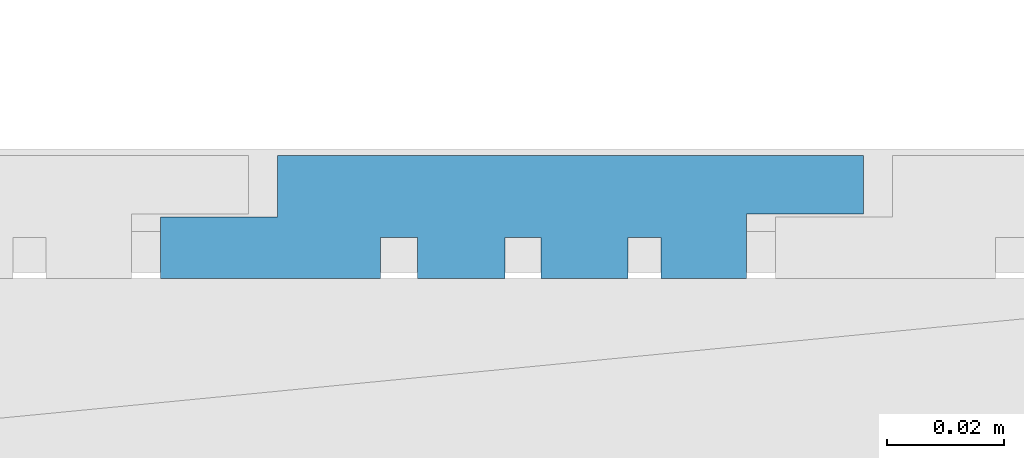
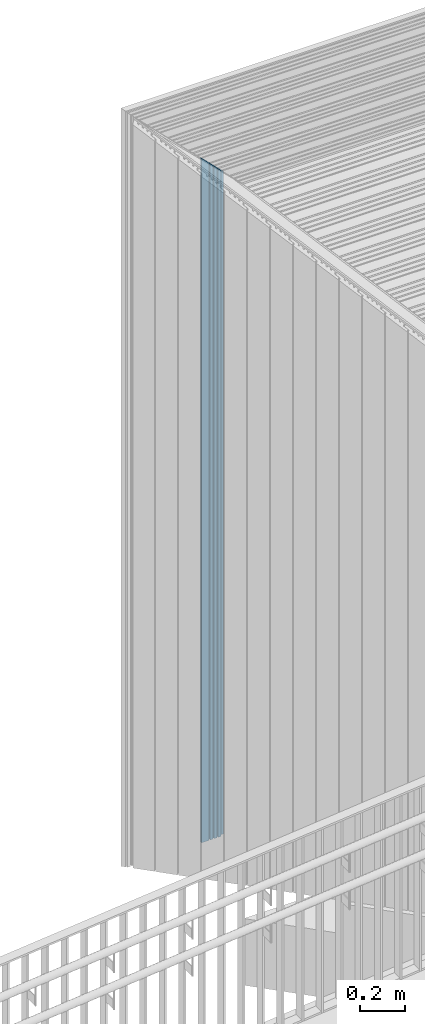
# One storey, part 135 of 418: 1 building element part, 1 element without a shape of its own.
"""IFC2X3 building model written with IfcOpenShell, lengths in millimetres."""

import ifcopenshell
import ifcopenshell.guid

model = None  # the IFC model being written
_history = None  # IfcOwnerHistory: only IFC2X3 demands one
_inside = {}  # id of a spatial element -> (the spatial element, [elements in it])
_under = {}  # id of a project, library or spatial element -> (it, [spatial elements below it])
_declared = {}  # id of a project -> (the project, [libraries it declares])
_typed = {}  # id of a type object -> (the type object, [elements of that type])
_made_of = {}  # id of a material, layer set ... -> (it, [elements and type objects made of it])


def new_model(schema):
    """Start an empty IFC model of exactly this schema.

    Asked for "IFC4X3", IfcOpenShell would pick the latest addendum, in which some entities
    have other attributes; the version numbers below select the first issue.
    IFC2X3 requires an IfcOwnerHistory on every rooted entity: one is made here for all.
    """
    global model, _history
    if schema == "IFC4X3":
        model = ifcopenshell.file(schema_version=(4, 3, 0, 0))
    else:
        model = ifcopenshell.file(schema=schema)
    _inside.clear()
    _under.clear()
    _declared.clear()
    _typed.clear()
    _made_of.clear()
    _history = None
    if model.schema == "IFC2X3":
        org = make("IfcOrganization", Name="unknown")
        user = make(
            "IfcPersonAndOrganization",
            ThePerson=make("IfcPerson", FamilyName="unknown"),
            TheOrganization=org,
        )
        app = make(
            "IfcApplication",
            ApplicationDeveloper=org,
            Version="unknown",
            ApplicationFullName="unknown",
            ApplicationIdentifier="unknown",
        )
        _history = make(
            "IfcOwnerHistory",
            OwningUser=user,
            OwningApplication=app,
            ChangeAction="ADDED",
            CreationDate=0,
        )
    return model


def make(cls, **values):
    """One entity of the class cls with the attributes given. An attribute that is None is left unset."""
    return model.create_entity(
        cls, **{name: value for name, value in values.items() if value is not None}
    )


def entity(cls, *values):
    """Any entity or typed value of the class cls, its attributes in the order of the schema. None: left unset."""
    e = model.create_entity(cls)
    for i, value in enumerate(values):
        if value is not None:
            e[i] = value
    return e


def rooted(cls, **values):
    """An entity with a GlobalId (a new one), such as an element, a storey or a relation."""
    return make(cls, GlobalId=ifcopenshell.guid.new(), OwnerHistory=_history, **values)


def si_unit(unit_type, name, prefix=None):
    """IfcSIUnit, for example si_unit("LENGTHUNIT", "METRE", prefix="MILLI")."""
    return make("IfcSIUnit", UnitType=unit_type, Prefix=prefix, Name=name)


def converted_unit(unit_type, name, factor, base, dimensions=None, offset=None):
    """IfcConversionBasedUnit, such as the inch: factor (a typed value) times the base unit."""
    return make(
        "IfcConversionBasedUnit"
        if offset is None
        else "IfcConversionBasedUnitWithOffset",
        ConversionOffset=offset,
        Dimensions=None
        if dimensions is None
        else entity("IfcDimensionalExponents", *dimensions),
        UnitType=unit_type,
        Name=name,
        ConversionFactor=make(
            "IfcMeasureWithUnit", ValueComponent=factor, UnitComponent=base
        ),
    )


def derived_unit(unit_type, elements):
    """IfcDerivedUnit: a product of units, each with its exponent."""
    return make(
        "IfcDerivedUnit",
        Elements=[
            make("IfcDerivedUnitElement", Unit=unit, Exponent=power)
            for unit, power in elements
        ],
        UnitType=unit_type,
    )


def money_unit(currency):
    """IfcMonetaryUnit."""
    return make("IfcMonetaryUnit", Currency=currency)


def assignment(units):
    """IfcUnitAssignment: the units of a project."""
    return None if units is None else make("IfcUnitAssignment", Units=units)


def point(xyz):
    """IfcCartesianPoint."""
    return None if xyz is None else make("IfcCartesianPoint", Coordinates=xyz)


def direction(xyz):
    """IfcDirection."""
    return None if xyz is None else make("IfcDirection", DirectionRatios=xyz)


def frame(location, z_axis=None, x_axis=None):
    """IfcAxis2Placement3D, a coordinate frame: its origin and axes. An axis left out is left unset."""
    return make(
        "IfcAxis2Placement3D",
        Location=point(location),
        Axis=direction(z_axis),
        RefDirection=direction(x_axis),
    )


def origin_with_axes():
    """The frame at (0, 0, 0) with the z axis (0, 0, 1) and the x axis (1, 0, 0) written out."""
    return frame((0.0, 0.0, 0.0), z_axis=(0.0, 0.0, 1.0), x_axis=(1.0, 0.0, 0.0))


def place(relative_to, where):
    """IfcLocalPlacement: puts the frame where relative to a parent placement (None: the world)."""
    return make(
        "IfcLocalPlacement", PlacementRelTo=relative_to, RelativePlacement=where
    )


def context(
    kind, dimensions, precision=None, world=None, true_north=None, identifier=None
):
    """IfcGeometricRepresentationContext, for example the 3D "Model" context."""
    return make(
        "IfcGeometricRepresentationContext",
        ContextIdentifier=identifier,
        ContextType=kind,
        CoordinateSpaceDimension=dimensions,
        Precision=precision,
        WorldCoordinateSystem=world,
        TrueNorth=true_north,
    )


def subcontext(parent, identifier, kind, view, scale=None):
    """IfcGeometricRepresentationSubContext, for example "Body" below "Model"."""
    return make(
        "IfcGeometricRepresentationSubContext",
        ContextIdentifier=identifier,
        ContextType=kind,
        ParentContext=parent,
        TargetScale=scale,
        TargetView=view,
    )


def project(units=None, contexts=None):
    """IfcProject with its units and contexts."""
    return rooted(
        "IfcProject",
        Name="project",
        RepresentationContexts=contexts,
        UnitsInContext=assignment(units),
    )


def spatial(cls, under=None, at=None, **own):
    """A site, building, storey or space (cls), placed at a placement, below another one or the project."""
    s = rooted(cls, ObjectPlacement=at, **own)
    if under is not None:
        _under.setdefault(under.id(), (under, []))[1].append(s)
    return s


def polyline(points):
    """IfcPolyline through the points."""
    return make("IfcPolyline", Points=[point(p) for p in points])


def outline(outer, holes=None, kind="AREA"):
    """IfcArbitraryClosedProfileDef: a profile drawn as a closed curve; with holes, ...WithVoids."""
    if holes is None:
        return make("IfcArbitraryClosedProfileDef", ProfileType=kind, OuterCurve=outer)
    return make(
        "IfcArbitraryProfileDefWithVoids",
        ProfileType=kind,
        OuterCurve=outer,
        InnerCurves=holes,
    )


def extrude(swept, where, along, depth):
    """IfcExtrudedAreaSolid: the profile swept, set in the frame where, extruded along a direction by depth."""
    return make(
        "IfcExtrudedAreaSolid",
        SweptArea=swept,
        Position=where,
        ExtrudedDirection=direction(along),
        Depth=depth,
    )


def boolean(op, a, b):
    """IfcBooleanResult of two solids."""
    return make("IfcBooleanResult", Operator=op, FirstOperand=a, SecondOperand=b)


def faces_of(points, faces, orient=None, outer=None):
    """IfcFace entities. A face is a list of loops; a loop is a list of indices into points, from 0.

    orient and outer hold one flag for each loop. By default every Orientation is true, the
    first loop of a face is its IfcFaceOuterBound and the others are IfcFaceBound.
    """
    made = []
    for i, loops in enumerate(faces):
        bounds = []
        for j, loop in enumerate(loops):
            is_outer = j == 0 if outer is None else outer[i][j]
            bounds.append(
                make(
                    "IfcFaceOuterBound" if is_outer else "IfcFaceBound",
                    Bound=make("IfcPolyLoop", Polygon=[points[k] for k in loop]),
                    Orientation=True if orient is None else orient[i][j],
                )
            )
        made.append(make("IfcFace", Bounds=bounds))
    return made


def faceted_brep(points, faces, orient=None, outer=None, voids=None):
    """IfcFacetedBrep: a solid bounded by flat faces; with voids (closed shells), ...WithVoids."""
    shared = [point(p) for p in points]
    hull = make("IfcClosedShell", CfsFaces=faces_of(shared, faces, orient, outer))
    if voids is None:
        return make("IfcFacetedBrep", Outer=hull)
    return make(
        "IfcFacetedBrepWithVoids",
        Outer=hull,
        Voids=[
            make(cls, CfsFaces=faces_of(shared, fs, o, b)) for cls, fs, o, b in voids
        ],
    )


def shape(context_of_items, identifier, shape_type, items):
    """IfcShapeRepresentation: the items that make up one representation, for example the "Body"."""
    return make(
        "IfcShapeRepresentation",
        ContextOfItems=context_of_items,
        RepresentationIdentifier=identifier,
        RepresentationType=shape_type,
        Items=items,
    )


def material(Name=None, Category=None):
    """IfcMaterial."""
    return make("IfcMaterial", Name=Name, Category=Category)


def made_of(thing, what):
    """Note that an element or type object is made of a material, layer set ...; save() writes the relation."""
    if what is not None:
        _made_of.setdefault(what.id(), (what, []))[1].append(thing)
    return thing


def type_object(cls, material=None, **own):
    """A type object (cls), such as IfcWallType, which elements share."""
    return made_of(rooted(cls, **own), material)


def element(
    cls,
    number,
    at=None,
    inside=None,
    cuts=None,
    type_object=None,
    material=None,
    context=None,
    identifier="Body",
    shape_type=None,
    held_by="IfcProductDefinitionShape",
    body=None,
    shapes=None,
    **own,
):
    """One element of the class cls, such as IfcWall. Its Tag is "e" and its number.

    at: its placement. inside: the storey or other place that contains it. cuts: it is an
    opening in that element (IfcRelVoidsElement). A single representation is given by context,
    identifier, shape_type and body (its items); several are given by shapes. held_by: the class
    of the entity that holds the representations. save() writes the other relations.
    """
    e = rooted(cls, Tag="e%d" % number, ObjectPlacement=at, **own)
    if body is not None:
        shapes = [shape(context, identifier, shape_type, body)]
    if shapes is not None:
        e.Representation = make(held_by, Representations=shapes)
    if inside is not None:
        _inside.setdefault(inside.id(), (inside, []))[1].append(e)
    if cuts is not None:
        rooted(
            "IfcRelVoidsElement", RelatingBuildingElement=cuts, RelatedOpeningElement=e
        )
    if type_object is not None:
        _typed.setdefault(type_object.id(), (type_object, []))[1].append(e)
    return made_of(e, material)


def aggregate(whole, parts):
    """IfcRelAggregates: a whole, such as a stair, and the parts it consists of."""
    return rooted("IfcRelAggregates", RelatingObject=whole, RelatedObjects=parts)


def save(model, path):
    """Write the relations noted so far, then the file.

    IfcRelAggregates (storeys below a building ...), IfcRelContainedInSpatialStructure (elements
    in a storey), IfcRelDefinesByType, IfcRelAssociatesMaterial and IfcRelDeclares: one each for
    every whole, place, type object, material and project.
    """
    for whole, parts in _under.values():
        aggregate(whole, parts)
    for where, things in _inside.values():
        rooted(
            "IfcRelContainedInSpatialStructure",
            RelatedElements=things,
            RelatingStructure=where,
        )
    for kind, things in _typed.values():
        rooted("IfcRelDefinesByType", RelatedObjects=things, RelatingType=kind)
    for what, things in _made_of.values():
        rooted("IfcRelAssociatesMaterial", RelatedObjects=things, RelatingMaterial=what)
    for by, libraries in _declared.values():
        rooted("IfcRelDeclares", RelatingContext=by, RelatedDefinitions=libraries)
    model.write(path)


model = new_model("IFC2X3")

# Units and contexts
model_context = context("Model", 3, precision=0.01, world=origin_with_axes(), true_north=direction((0.0, 1.0)))
body_context = subcontext(model_context, "Body", "Model", "MODEL_VIEW")
ifc_project = project(units=[si_unit("LENGTHUNIT", "METRE", prefix="MILLI"), si_unit("AREAUNIT", "SQUARE_METRE"), si_unit("VOLUMEUNIT", "CUBIC_METRE"), converted_unit("PLANEANGLEUNIT", "DEGREE", entity("IfcPlaneAngleMeasure", 0.0174532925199), si_unit("PLANEANGLEUNIT", "RADIAN"), dimensions=[0, 0, 0, 0, 0, 0, 0]), si_unit("SOLIDANGLEUNIT", "STERADIAN"), money_unit("EUR"), converted_unit("TIMEUNIT", "Year", entity("IfcTimeMeasure", 31556926.0), si_unit("TIMEUNIT", "SECOND"), dimensions=[0, 0, 1, 0, 0, 0, 0]), si_unit("MASSUNIT", "GRAM", prefix="KILO"), si_unit("THERMODYNAMICTEMPERATUREUNIT", "DEGREE_CELSIUS"), si_unit("LUMINOUSINTENSITYUNIT", "LUMEN"), si_unit("ENERGYUNIT", "JOULE", prefix="MEGA"), derived_unit("THERMALCONDUCTANCEUNIT", [(si_unit("POWERUNIT", "WATT"), 1), (si_unit("LENGTHUNIT", "METRE"), -1), (si_unit("THERMODYNAMICTEMPERATUREUNIT", "KELVIN"), -1)]), derived_unit("SPECIFICHEATCAPACITYUNIT", [(si_unit("ENERGYUNIT", "JOULE"), 1), (si_unit("MASSUNIT", "GRAM", prefix="KILO"), -1), (si_unit("THERMODYNAMICTEMPERATUREUNIT", "KELVIN"), -1)]), derived_unit("MASSDENSITYUNIT", [(si_unit("MASSUNIT", "GRAM", prefix="KILO"), 1), (si_unit("VOLUMEUNIT", "CUBIC_METRE"), -1)])], contexts=[model_context])

# Site, building, storey
site_placement = place(None, origin_with_axes())
site = spatial("IfcSite", under=ifc_project, at=site_placement, Name="Paldiski mnt 245/1, Tallinn, Harjumaa", CompositionType="COMPLEX")
building_placement = place(site_placement, origin_with_axes())
building = spatial("IfcBuilding", under=site, at=building_placement, Name="RKAS Hoone üldnimetus (kasutust iseloomustav) -> IFC Project Manager -> SOLIBRI", CompositionType="ELEMENT")
storey_placement = place(building_placement, origin_with_axes())
storey = spatial("IfcBuildingStorey", under=building, at=storey_placement, Name="Esimene korrus", CompositionType="ELEMENT", Elevation=0.0)

# Proxy, building element part
building_element_proxy_type = type_object("IfcBuildingElementProxyType", Name="Laudis esiprofiil_01 21 x 622", PredefinedType="NOTDEFINED")
proxy_placement = place(storey_placement, frame((-54498.5561962, 39788.252735, 0.0), z_axis=(0.0, 0.0, 1.0), x_axis=(0.0, 1.0, 0.0)))
proxy = element("IfcBuildingElementProxy", 1, at=proxy_placement, inside=storey, type_object=building_element_proxy_type, Name="Varikatus")
ifc_material = material(Name="Laudis 5072 Honka 45 horisontaalne raastas")
building_element_part_placement = place(proxy_placement, origin_with_axes())
building_element_part = element("IfcBuildingElementPart", 2, at=building_element_part_placement, material=ifc_material, Name="Laudis 5072 Honka 45 horisontaalne raastas", context=body_context, shape_type="CSG", body=[
    boolean("DIFFERENCE", boolean("DIFFERENCE", boolean("DIFFERENCE", boolean("DIFFERENCE", boolean("DIFFERENCE", boolean("DIFFERENCE", extrude(outline(polyline([(3.20348192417e-08, -415.971430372), (-10.5000010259, -415.971430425), (-10.5000005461, -395.971429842), (-20.9999998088, -395.971430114), (-21.0000010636, -433.497524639), (-14.0000005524, -433.497525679), (-14.0000003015, -439.860022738), (-20.99999981, -439.860022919), (-20.9999998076, -454.79914009), (-14.0000002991, -454.799139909), (-14.0000007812, -460.926080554), (-21.0000002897, -460.926080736), (-21.0000013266, -475.754573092), (-14.0000008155, -475.754574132), (-14.0000015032, -481.395242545), (-21.0000010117, -481.395242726), (-21.0000007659, -495.971429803), (-10.000001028, -495.971430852), (-10.0000002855, -515.971430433), (-7.63172636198e-07, -515.971430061), (3.20348192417e-08, -415.971430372)])), origin_with_axes(), (0.0, 0.0, 1.0), 4086.15997799), faceted_brep([(-10.0000002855, -515.971430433, 3569.02857075), (-7.63172636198e-07, -515.971430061, 3569.02857112), (-7.63172636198e-07, -515.971430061, 4086.15997799), (-10.0000002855, -515.971430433, 4086.15997799), (3.20312665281e-08, -415.971430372, 3669.02857081), (-10.000001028, -495.971430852, 3589.02857033), (-21.0000007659, -495.971429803, 3589.02857138), (-21.0000010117, -481.395242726, 3603.60475846), (-14.0000015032, -481.395242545, 3603.60475864), (-14.0000008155, -475.754574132, 3609.24542705), (-21.0000013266, -475.754573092, 3609.24542809), (-21.0000002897, -460.926080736, 3624.07392045), (-14.0000007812, -460.926080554, 3624.07392063), (-14.0000002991, -454.799139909, 3630.20086128), (-20.9999998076, -454.79914009, 3630.20086109), (-20.99999981, -439.860022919, 3645.13997827), (-14.0000003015, -439.860022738, 3645.13997845), (-14.0000005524, -433.497525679, 3651.50247551), (-21.0000010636, -433.497524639, 3651.50247655), (-20.9999998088, -395.971430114, 3689.02857107), (-10.5000005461, -395.971429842, 3689.02857134), (-10.5000010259, -415.971430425, 3669.02857076), (3.20312665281e-08, -415.971430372, 4086.15997799), (-10.5000010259, -415.971430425, 4086.15997799), (-10.5000005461, -395.971429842, 4086.15997799), (-20.9999998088, -395.971430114, 4086.15997799), (-21.0000010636, -433.497524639, 4086.15997799), (-14.0000005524, -433.497525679, 4086.15997799), (-14.0000003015, -439.860022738, 4086.15997799), (-20.99999981, -439.860022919, 4086.15997799), (-20.9999998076, -454.79914009, 4086.15997799), (-14.0000002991, -454.799139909, 4086.15997799), (-14.0000007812, -460.926080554, 4086.15997799), (-21.0000002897, -460.926080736, 4086.15997799), (-21.0000013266, -475.754573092, 4086.15997799), (-14.0000008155, -475.754574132, 4086.15997799), (-14.0000015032, -481.395242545, 4086.15997799), (-21.0000010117, -481.395242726, 4086.15997799), (-21.0000007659, -495.971429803, 4086.15997799), (-10.000001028, -495.971430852, 4086.15997799)], [[[0, 1, 2, 3]], [[4, 1, 0, 5, 6, 7, 8, 9, 10, 11, 12, 13, 14, 15, 16, 17, 18, 19, 20, 21]], [[1, 4, 22, 2]], [[2, 22, 23, 24, 25, 26, 27, 28, 29, 30, 31, 32, 33, 34, 35, 36, 37, 38, 39, 3]], [[5, 0, 3, 39]], [[6, 5, 39, 38]], [[7, 6, 38, 37]], [[8, 7, 37, 36]], [[9, 8, 36, 35]], [[10, 9, 35, 34]], [[11, 10, 34, 33]], [[12, 11, 33, 32]], [[13, 12, 32, 31]], [[14, 13, 31, 30]], [[15, 14, 30, 29]], [[16, 15, 29, 28]], [[17, 16, 28, 27]], [[18, 17, 27, 26]], [[19, 18, 26, 25]], [[20, 19, 25, 24]], [[21, 20, 24, 23]], [[4, 21, 23, 22]]])), faceted_brep([(-10.0000002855, -620.971430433, 3464.02857075), (-7.63172636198e-07, -620.971430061, 3464.02857112), (-7.63172636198e-07, -620.971430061, 4086.15997799), (-10.0000002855, -620.971430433, 4086.15997799), (3.20312665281e-08, -520.971430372, 3564.02857081), (-10.000001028, -600.971430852, 3484.02857033), (-21.0000007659, -600.971429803, 3484.02857138), (-21.0000010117, -586.395242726, 3498.60475846), (-14.0000015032, -586.395242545, 3498.60475864), (-14.0000008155, -580.754574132, 3504.24542705), (-21.0000013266, -580.754573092, 3504.24542809), (-21.0000002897, -565.926080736, 3519.07392045), (-14.0000007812, -565.926080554, 3519.07392063), (-14.0000002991, -559.799139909, 3525.20086128), (-20.9999998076, -559.79914009, 3525.20086109), (-20.99999981, -544.860022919, 3540.13997827), (-14.0000003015, -544.860022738, 3540.13997845), (-14.0000005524, -538.497525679, 3546.50247551), (-21.0000010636, -538.497524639, 3546.50247655), (-20.9999998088, -500.971430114, 3584.02857107), (-10.5000005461, -500.971429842, 3584.02857134), (-10.5000010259, -520.971430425, 3564.02857076), (3.20312665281e-08, -520.971430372, 4086.15997799), (-10.5000010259, -520.971430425, 4086.15997799), (-10.5000005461, -500.971429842, 4086.15997799), (-20.9999998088, -500.971430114, 4086.15997799), (-21.0000010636, -538.497524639, 4086.15997799), (-14.0000005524, -538.497525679, 4086.15997799), (-14.0000003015, -544.860022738, 4086.15997799), (-20.99999981, -544.860022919, 4086.15997799), (-20.9999998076, -559.79914009, 4086.15997799), (-14.0000002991, -559.799139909, 4086.15997799), (-14.0000007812, -565.926080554, 4086.15997799), (-21.0000002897, -565.926080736, 4086.15997799), (-21.0000013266, -580.754573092, 4086.15997799), (-14.0000008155, -580.754574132, 4086.15997799), (-14.0000015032, -586.395242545, 4086.15997799), (-21.0000010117, -586.395242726, 4086.15997799), (-21.0000007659, -600.971429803, 4086.15997799), (-10.000001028, -600.971430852, 4086.15997799)], [[[0, 1, 2, 3]], [[4, 1, 0, 5, 6, 7, 8, 9, 10, 11, 12, 13, 14, 15, 16, 17, 18, 19, 20, 21]], [[1, 4, 22, 2]], [[2, 22, 23, 24, 25, 26, 27, 28, 29, 30, 31, 32, 33, 34, 35, 36, 37, 38, 39, 3]], [[5, 0, 3, 39]], [[6, 5, 39, 38]], [[7, 6, 38, 37]], [[8, 7, 37, 36]], [[9, 8, 36, 35]], [[10, 9, 35, 34]], [[11, 10, 34, 33]], [[12, 11, 33, 32]], [[13, 12, 32, 31]], [[14, 13, 31, 30]], [[15, 14, 30, 29]], [[16, 15, 29, 28]], [[17, 16, 28, 27]], [[18, 17, 27, 26]], [[19, 18, 26, 25]], [[20, 19, 25, 24]], [[21, 20, 24, 23]], [[4, 21, 23, 22]]])), faceted_brep([(-10.0000002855, -305.971430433, 3779.02857075), (-7.63179741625e-07, -305.971430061, 3779.02857112), (-7.63179741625e-07, -305.971430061, 4086.15997799), (-10.0000002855, -305.971430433, 4086.15997799), (3.20312665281e-08, -205.971430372, 3879.02857081), (-10.000001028, -285.971430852, 3799.02857033), (-21.0000007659, -285.971429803, 3799.02857138), (-21.0000010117, -271.395242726, 3813.60475846), (-14.0000015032, -271.395242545, 3813.60475864), (-14.0000008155, -265.754574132, 3819.24542705), (-21.0000013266, -265.754573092, 3819.24542809), (-21.0000002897, -250.926080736, 3834.07392045), (-14.0000007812, -250.926080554, 3834.07392063), (-14.0000002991, -244.799139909, 3840.20086128), (-20.9999998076, -244.79914009, 3840.20086109), (-20.99999981, -229.860022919, 3855.13997827), (-14.0000003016, -229.860022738, 3855.13997845), (-14.0000005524, -223.497525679, 3861.50247551), (-21.0000010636, -223.497524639, 3861.50247655), (-20.9999998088, -185.971430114, 3899.02857107), (-10.5000005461, -185.971429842, 3899.02857134), (-10.5000010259, -205.971430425, 3879.02857076), (3.20312665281e-08, -205.971430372, 4086.15997799), (-10.5000010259, -205.971430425, 4086.15997799), (-10.5000005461, -185.971429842, 4086.15997799), (-20.9999998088, -185.971430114, 4086.15997799), (-21.0000010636, -223.497524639, 4086.15997799), (-14.0000005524, -223.497525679, 4086.15997799), (-14.0000003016, -229.860022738, 4086.15997799), (-20.99999981, -229.860022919, 4086.15997799), (-20.9999998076, -244.79914009, 4086.15997799), (-14.0000002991, -244.799139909, 4086.15997799), (-14.0000007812, -250.926080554, 4086.15997799), (-21.0000002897, -250.926080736, 4086.15997799), (-21.0000013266, -265.754573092, 4086.15997799), (-14.0000008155, -265.754574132, 4086.15997799), (-14.0000015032, -271.395242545, 4086.15997799), (-21.0000010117, -271.395242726, 4086.15997799), (-21.0000007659, -285.971429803, 4086.15997799), (-10.000001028, -285.971430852, 4086.15997799)], [[[0, 1, 2, 3]], [[4, 1, 0, 5, 6, 7, 8, 9, 10, 11, 12, 13, 14, 15, 16, 17, 18, 19, 20, 21]], [[1, 4, 22, 2]], [[2, 22, 23, 24, 25, 26, 27, 28, 29, 30, 31, 32, 33, 34, 35, 36, 37, 38, 39, 3]], [[5, 0, 3, 39]], [[6, 5, 39, 38]], [[7, 6, 38, 37]], [[8, 7, 37, 36]], [[9, 8, 36, 35]], [[10, 9, 35, 34]], [[11, 10, 34, 33]], [[12, 11, 33, 32]], [[13, 12, 32, 31]], [[14, 13, 31, 30]], [[15, 14, 30, 29]], [[16, 15, 29, 28]], [[17, 16, 28, 27]], [[18, 17, 27, 26]], [[19, 18, 26, 25]], [[20, 19, 25, 24]], [[21, 20, 24, 23]], [[4, 21, 23, 22]]])), faceted_brep([(-10.0000002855, -410.971430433, 3674.02857075), (-7.63172636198e-07, -410.971430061, 3674.02857112), (-7.63172636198e-07, -410.971430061, 4086.15997799), (-10.0000002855, -410.971430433, 4086.15997799), (3.20312665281e-08, -310.971430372, 3774.02857081), (-10.000001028, -390.971430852, 3694.02857033), (-21.0000007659, -390.971429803, 3694.02857138), (-21.0000010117, -376.395242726, 3708.60475846), (-14.0000015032, -376.395242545, 3708.60475864), (-14.0000008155, -370.754574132, 3714.24542705), (-21.0000013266, -370.754573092, 3714.24542809), (-21.0000002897, -355.926080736, 3729.07392045), (-14.0000007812, -355.926080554, 3729.07392063), (-14.0000002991, -349.799139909, 3735.20086128), (-20.9999998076, -349.79914009, 3735.20086109), (-20.99999981, -334.860022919, 3750.13997827), (-14.0000003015, -334.860022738, 3750.13997845), (-14.0000005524, -328.497525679, 3756.50247551), (-21.0000010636, -328.497524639, 3756.50247655), (-20.9999998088, -290.971430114, 3794.02857107), (-10.5000005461, -290.971429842, 3794.02857134), (-10.5000010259, -310.971430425, 3774.02857076), (3.20312665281e-08, -310.971430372, 4086.15997799), (-10.5000010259, -310.971430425, 4086.15997799), (-10.5000005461, -290.971429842, 4086.15997799), (-20.9999998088, -290.971430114, 4086.15997799), (-21.0000010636, -328.497524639, 4086.15997799), (-14.0000005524, -328.497525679, 4086.15997799), (-14.0000003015, -334.860022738, 4086.15997799), (-20.99999981, -334.860022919, 4086.15997799), (-20.9999998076, -349.79914009, 4086.15997799), (-14.0000002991, -349.799139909, 4086.15997799), (-14.0000007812, -355.926080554, 4086.15997799), (-21.0000002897, -355.926080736, 4086.15997799), (-21.0000013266, -370.754573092, 4086.15997799), (-14.0000008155, -370.754574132, 4086.15997799), (-14.0000015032, -376.395242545, 4086.15997799), (-21.0000010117, -376.395242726, 4086.15997799), (-21.0000007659, -390.971429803, 4086.15997799), (-10.000001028, -390.971430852, 4086.15997799)], [[[0, 1, 2, 3]], [[4, 1, 0, 5, 6, 7, 8, 9, 10, 11, 12, 13, 14, 15, 16, 17, 18, 19, 20, 21]], [[1, 4, 22, 2]], [[2, 22, 23, 24, 25, 26, 27, 28, 29, 30, 31, 32, 33, 34, 35, 36, 37, 38, 39, 3]], [[5, 0, 3, 39]], [[6, 5, 39, 38]], [[7, 6, 38, 37]], [[8, 7, 37, 36]], [[9, 8, 36, 35]], [[10, 9, 35, 34]], [[11, 10, 34, 33]], [[12, 11, 33, 32]], [[13, 12, 32, 31]], [[14, 13, 31, 30]], [[15, 14, 30, 29]], [[16, 15, 29, 28]], [[17, 16, 28, 27]], [[18, 17, 27, 26]], [[19, 18, 26, 25]], [[20, 19, 25, 24]], [[21, 20, 24, 23]], [[4, 21, 23, 22]]])), faceted_brep([(-10.0000000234, -95.9714304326, 3989.02857075), (-1.4387921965e-06, -95.9714304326, 3989.02857075), (-1.4387921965e-06, -95.9714304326, 4086.15997799), (-10.0000000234, -95.9714304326, 4086.15997799), (8.28492829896e-09, 1.13997680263, 4086.13997799), (-10.0000014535, -75.9714304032, 4009.02857078), (-21.0000013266, -75.9714304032, 4009.02857078), (-21.0000013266, -61.3952431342, 4023.60475805), (-14.0000008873, -61.3952431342, 4023.60475805), (-14.0000008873, -55.7545748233, 4029.24542636), (-21.0000013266, -55.7545733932, 4029.24542779), (-20.9999998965, -40.9260801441, 4044.07392104), (-14.0000008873, -40.9260801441, 4044.07392104), (-14.0000008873, -34.7991393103, 4050.20086187), (-20.9999998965, -34.7991407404, 4050.20086044), (-20.9999998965, -19.8600231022, 4065.13997808), (-14.0000008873, -19.8600231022, 4065.13997808), (-14.0000008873, -12.860024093, 4072.13997709), (8.28492829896e-09, 1.13997680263, 4086.15997799), (-20.9999998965, -40.9260801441, 4086.15997799), (-21.0000013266, -55.7545733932, 4086.15997799), (-14.0000008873, -55.7545748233, 4086.15997799), (-14.0000008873, -61.3952431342, 4086.15997799), (-21.0000013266, -61.3952431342, 4086.15997799), (-21.0000013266, -75.9714304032, 4086.15997799), (-10.0000014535, -75.9714304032, 4086.15997799), (-14.0000008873, -12.860024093, 4086.15997799), (-14.0000008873, -19.8600231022, 4086.15997799), (-20.9999998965, -19.8600231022, 4086.15997799), (-20.9999998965, -34.7991407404, 4086.15997799), (-14.0000008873, -34.7991393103, 4086.15997799), (-14.0000008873, -40.9260801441, 4086.15997799)], [[[0, 1, 2, 3]], [[4, 1, 0, 5, 6, 7, 8, 9, 10, 11, 12, 13, 14, 15, 16, 17]], [[1, 4, 18, 2]], [[19, 20, 21, 22, 23, 24, 25, 3, 2, 18, 26, 27, 28, 29, 30, 31]], [[5, 0, 3, 25]], [[6, 5, 25, 24]], [[7, 6, 24, 23]], [[8, 7, 23, 22]], [[9, 8, 22, 21]], [[10, 9, 21, 20]], [[11, 10, 20, 19]], [[12, 11, 19, 31]], [[13, 12, 31, 30]], [[14, 13, 30, 29]], [[15, 14, 29, 28]], [[16, 15, 28, 27]], [[17, 16, 27, 26]], [[4, 17, 26, 18]]])), faceted_brep([(-10.0000002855, -200.971430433, 3884.02857075), (-7.63179741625e-07, -200.971430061, 3884.02857112), (-7.63179741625e-07, -200.971430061, 4086.15997799), (-10.0000002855, -200.971430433, 4086.15997799), (3.20312665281e-08, -100.971430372, 3984.02857081), (-10.000001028, -180.971430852, 3904.02857033), (-21.0000007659, -180.971429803, 3904.02857138), (-21.0000010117, -166.395242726, 3918.60475846), (-14.0000015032, -166.395242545, 3918.60475864), (-14.0000008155, -160.754574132, 3924.24542705), (-21.0000013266, -160.754573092, 3924.24542809), (-21.0000002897, -145.926080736, 3939.07392045), (-14.0000007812, -145.926080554, 3939.07392063), (-14.0000002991, -139.799139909, 3945.20086128), (-20.9999998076, -139.79914009, 3945.20086109), (-20.99999981, -124.860022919, 3960.13997827), (-14.0000003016, -124.860022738, 3960.13997845), (-14.0000005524, -118.497525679, 3966.50247551), (-21.0000010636, -118.497524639, 3966.50247655), (-20.9999998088, -80.9714301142, 4004.02857107), (-10.5000005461, -80.9714298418, 4004.02857134), (-10.5000010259, -100.971430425, 3984.02857076), (3.20312665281e-08, -100.971430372, 4086.15997799), (-10.5000010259, -100.971430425, 4086.15997799), (-10.5000005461, -80.9714298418, 4086.15997799), (-20.9999998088, -80.9714301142, 4086.15997799), (-21.0000010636, -118.497524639, 4086.15997799), (-14.0000005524, -118.497525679, 4086.15997799), (-14.0000003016, -124.860022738, 4086.15997799), (-20.99999981, -124.860022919, 4086.15997799), (-20.9999998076, -139.79914009, 4086.15997799), (-14.0000002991, -139.799139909, 4086.15997799), (-14.0000007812, -145.926080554, 4086.15997799), (-21.0000002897, -145.926080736, 4086.15997799), (-21.0000013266, -160.754573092, 4086.15997799), (-14.0000008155, -160.754574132, 4086.15997799), (-14.0000015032, -166.395242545, 4086.15997799), (-21.0000010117, -166.395242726, 4086.15997799), (-21.0000007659, -180.971429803, 4086.15997799), (-10.000001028, -180.971430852, 4086.15997799)], [[[0, 1, 2, 3]], [[4, 1, 0, 5, 6, 7, 8, 9, 10, 11, 12, 13, 14, 15, 16, 17, 18, 19, 20, 21]], [[1, 4, 22, 2]], [[2, 22, 23, 24, 25, 26, 27, 28, 29, 30, 31, 32, 33, 34, 35, 36, 37, 38, 39, 3]], [[5, 0, 3, 39]], [[6, 5, 39, 38]], [[7, 6, 38, 37]], [[8, 7, 37, 36]], [[9, 8, 36, 35]], [[10, 9, 35, 34]], [[11, 10, 34, 33]], [[12, 11, 33, 32]], [[13, 12, 32, 31]], [[14, 13, 31, 30]], [[15, 14, 30, 29]], [[16, 15, 29, 28]], [[17, 16, 28, 27]], [[18, 17, 27, 26]], [[19, 18, 26, 25]], [[20, 19, 25, 24]], [[21, 20, 24, 23]], [[4, 21, 23, 22]]])),
])
aggregate(proxy, [building_element_part])

save(model, "model.ifc")
